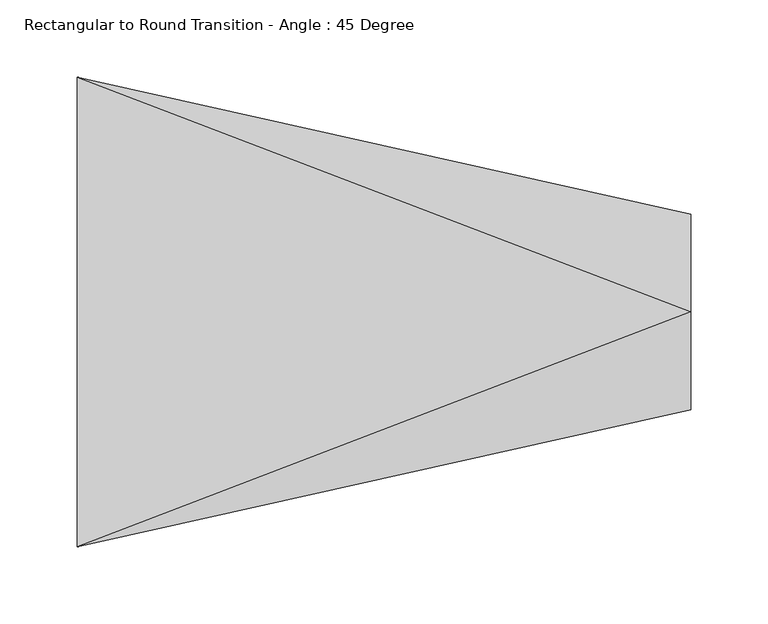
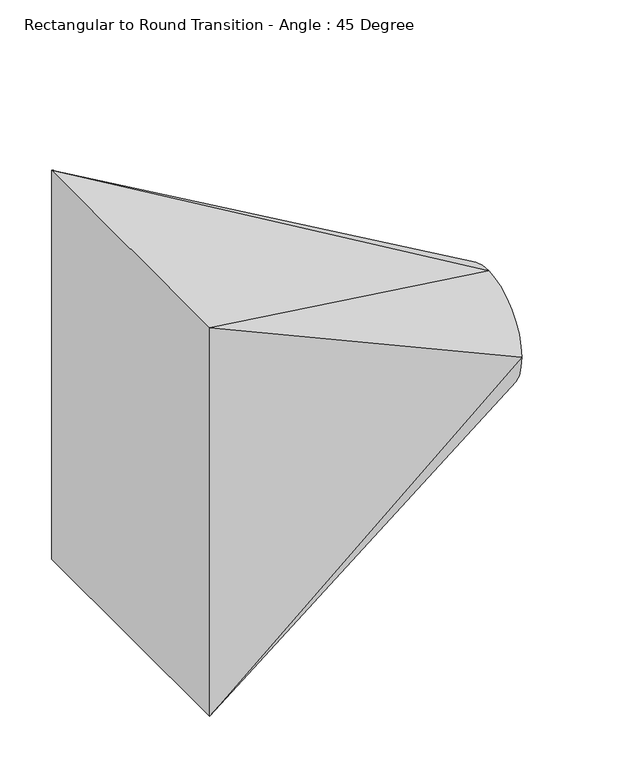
"""IFC4 building model written with IfcOpenShell, lengths in millimetres: duct fitting geometry, Rectangular to Round Transition - Angle : 45 Degree."""

from ifc_helpers import new_model, si_unit, frame, origin, place, context, project, spatial, circle_curve, source, transform, mapped, element, save
from ifc_brep_helpers import plane_surface, spline_surface, advanced_brep


def rectangular_to_round_transition_angle_45_degree_6a3e0b62(model_context):
    return source(origin(), model_context, "Body", "AdvancedBrep", [
        advanced_brep(
        [(398.5866591, 0.0, 63.5), (398.5866591, -63.5, 0.0), (398.5866591, 0.0, -63.5), (398.5866591, 63.5, 0.0), (0.0, -152.4, 228.6), (0.0, 152.4, 228.6), (0.0, 152.4, -228.6), (0.0, -152.4, -228.6)],
        [
            (0, 1, circle_curve(frame((398.5866591, 0.0, 0.0), z_axis=(1.0, 0.0, 0.0), x_axis=(0.0, 1.0, 0.0)), 63.5)),
            (1, 2, circle_curve(frame((398.5866591, 0.0, 0.0), z_axis=(1.0, 0.0, 0.0), x_axis=(0.0, 1.0, 0.0)), 63.5)),
            (2, 3, circle_curve(frame((398.5866591, 0.0, 0.0), z_axis=(1.0, 0.0, 0.0), x_axis=(0.0, 1.0, 0.0)), 63.5)),
            (3, 0, circle_curve(frame((398.5866591, 0.0, 0.0), z_axis=(1.0, 0.0, 0.0), x_axis=(0.0, 1.0, 0.0)), 63.5)),
            (4, 5),
            (5, 6),
            (6, 7),
            (7, 4),
            (0, 4),
            (4, 1),
            (7, 1),
            (7, 2),
            (6, 2),
            (6, 3),
            (5, 3),
            (5, 0),
        ],
        [
            plane_surface(frame((398.5866591, 0.0, 0.0), z_axis=(1.0, 0.0, 0.0), x_axis=(0.0, 0.0, -1.0))),
            plane_surface(frame((0.0, 0.0, 0.0), z_axis=(-1.0, 0.0, 0.0), x_axis=(0.0, 0.0, -1.0))),
            spline_surface(2, 1, [[(0.0, -152.4, 228.6), (398.5866591, 0.0, 63.5)], [(0.0, -152.4, 228.6), (398.5866591, -63.5, 63.5)], [(0.0, -152.4, 228.6), (398.5866591, -63.5, 0.0)]], [3, 3], [2, 2], [0.0, 1.0], [0.0, 1.0], weights=[[1.0, 1.0], [0.7071067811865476, 0.7071067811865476], [1.0, 1.0]]),
            plane_surface(frame((0.0, -152.4, 0.0), z_axis=(0.21768920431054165, -0.9760181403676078, 0.0), x_axis=(0.0, 0.0, -1.0))),
            spline_surface(2, 1, [[(0.0, -152.4, -228.6), (398.5866591, -63.5, 0.0)], [(0.0, -152.4, -228.6), (398.5866591, -63.5, -63.5)], [(0.0, -152.4, -228.6), (398.5866591, 0.0, -63.5)]], [3, 3], [2, 2], [0.0, 1.0], [0.0, 1.0], weights=[[1.0, 1.0], [0.7071067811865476, 0.7071067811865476], [1.0, 1.0]]),
            plane_surface(frame((0.0, 0.0, -228.6), z_axis=(0.38268343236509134, 0.0, -0.9238795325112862), x_axis=(0.0, 1.0, 0.0))),
            spline_surface(2, 1, [[(0.0, 152.4, -228.6), (398.5866591, 0.0, -63.5)], [(0.0, 152.4, -228.6), (398.5866591, 63.5, -63.5)], [(0.0, 152.4, -228.6), (398.5866591, 63.5, 0.0)]], [3, 3], [2, 2], [0.0, 1.0], [0.0, 1.0], weights=[[1.0, 1.0], [0.7071067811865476, 0.7071067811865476], [1.0, 1.0]]),
            plane_surface(frame((0.0, 152.4, 0.0), z_axis=(0.21768920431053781, 0.9760181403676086, 0.0), x_axis=(0.0, 0.0, 1.0))),
            spline_surface(2, 1, [[(0.0, 152.4, 228.6), (398.5866591, 63.5, 0.0)], [(0.0, 152.4, 228.6), (398.5866591, 63.5, 63.5)], [(0.0, 152.4, 228.6), (398.5866591, 0.0, 63.5)]], [3, 3], [2, 2], [0.0, 1.0], [0.0, 1.0], weights=[[1.0, 1.0], [0.7071067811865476, 0.7071067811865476], [1.0, 1.0]]),
            plane_surface(frame((0.0, 0.0, 228.6), z_axis=(0.3826834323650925, 0.0, 0.9238795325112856), x_axis=(0.0, -1.0, 0.0))),
        ],
        [
            (0, [[1, 2, 3, 4]]),
            (1, [[5, 6, 7, 8]]),
            (2, [[-1, 9, 10]]),
            (3, [[-8, 11, -10]]),
            (4, [[-2, -11, 12]]),
            (5, [[-7, 13, -12]]),
            (6, [[-3, -13, 14]]),
            (7, [[-6, 15, -14]]),
            (8, [[-4, -15, 16]]),
            (9, [[-5, -9, -16]]),
        ],
    ),
    ])


if __name__ == "__main__":
    model = new_model("IFC4")
    model_context = context("Model", 3, world=origin())
    ifc_project = project(units=[si_unit("LENGTHUNIT", "METRE", prefix="MILLI")], contexts=[model_context])
    site = spatial("IfcSite", under=ifc_project)
    building = spatial("IfcBuilding", under=site)
    placement = place(None, origin())
    rectangular_to_round_transition_angle_45_degree_shape = rectangular_to_round_transition_angle_45_degree_6a3e0b62(model_context)
    element("IfcDuctFitting", 1, ObjectType="Rectangular to Round Transition - Angle : 45 Degree", at=placement, inside=building, context=model_context, shape_type="MappedRepresentation", body=[
        mapped(rectangular_to_round_transition_angle_45_degree_shape, transform((0.0, 0.0, 0.0), x_axis=(1.0, 0.0, 0.0), y_axis=(0.0, 1.0, 0.0), z_axis=(0.0, 0.0, 1.0))),
    ])
    save(model, "model.ifc")
